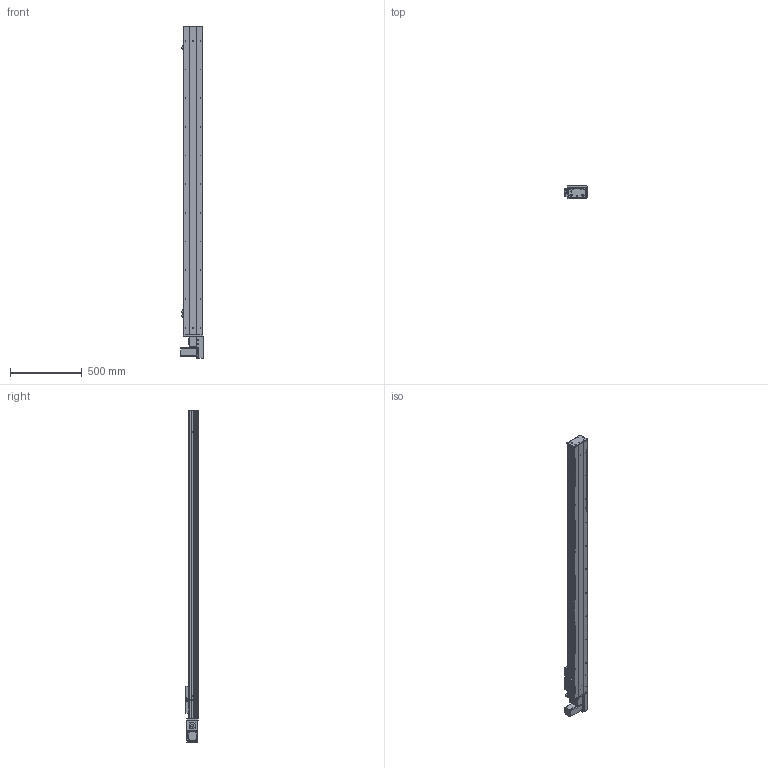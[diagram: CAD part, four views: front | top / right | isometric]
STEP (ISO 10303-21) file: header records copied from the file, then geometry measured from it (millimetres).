
FILE_DESCRIPTION (( 'STEP AP203' ), '1' );
FILE_NAME ('Y135CB-D90-S1850-BL-P400W.STEP', '2020-02-18T01:27:39', ( '微软用户' ), ( '微软中国' ), 'SwSTEP 2.0', 'SolidWorks 2017', '' );
FILE_SCHEMA (( 'CONFIG_CONTROL_DESIGN' ));
Length unit declared in the file: millimetre
Products named in the file (18): 5C--俋欶; 0B-源倛裔啣; C-雄赽釱--; 0B-萇儂楊擘啣; Y135CB-耜裔; Y135CB-D90-S1850-BL-P400W; san松下电机400不带刹车----; 135CB---遴掛极.-; 5CB --掛极耜裔啣-; 35CB---喘謫眊楊擘啣; C-詩湍揤踡え-陔; Y10B--々湍喘謫眊--666; 135CB--詩湍-CE; Y10B-耜蚾蟀諉啣----; Y100-135俋离換覜ん--; Y俋欶BR----; Y135C-陔俋离換覜結え-; 0B-埴倛裔啣
Assembly tree (21 placements, depth 2):
  Y135CB-D90-S1850-BL-P400W
    Y135CB-耜裔
    135CB---遴掛极.-
    35CB---喘謫眊楊擘啣
    Y10B--々湍喘謫眊--666
    Y10B-耜蚾蟀諉啣----
    Y俋欶BR----
    0B-埴倛裔啣
    0B-源倛裔啣
    0B-萇儂楊擘啣
    san松下电机400不带刹车----
    5CB --掛极耜裔啣-  x2
    C-詩湍揤踡え-陔  x2
    135CB--詩湍-CE
    Y100-135俋离換覜ん--  x3
    Y135C-陔俋离換覜結え-
    5C--俋欶
    C-雄赽釱--
Bounding box: 157.5 x 91 x 2314.5 mm (x, y, z)
Volume: 6594733.8 mm3; surface area: 2603443.5 mm2
Topology: 21 solids, 21 shells, 961 faces, 2599 edges, 1722 vertices
Faces by surface type: cylinder 487, plane 458, cone 16
Entity records: 30149 total; most frequent: DIRECTION 5007, CARTESIAN_POINT 4988, ORIENTED_EDGE 4674, EDGE_CURVE 2337, AXIS2_PLACEMENT_3D 1829, VERTEX_POINT 1550, VECTOR 1349, LINE 1349
